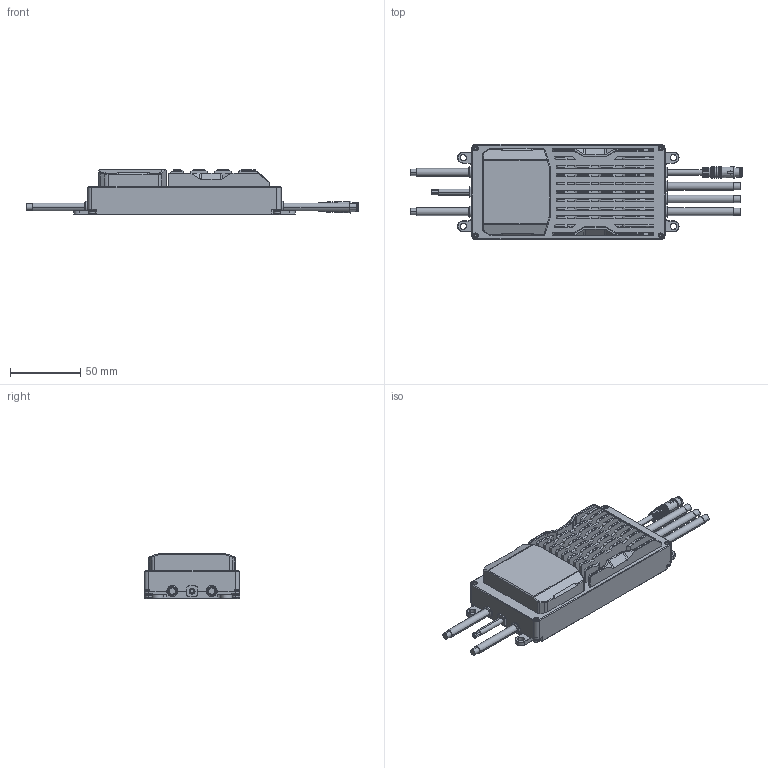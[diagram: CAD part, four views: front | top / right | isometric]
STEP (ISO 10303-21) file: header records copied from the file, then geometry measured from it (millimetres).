
FILE_DESCRIPTION((''),'2;1');
FILE_NAME('MK1','2024-11-25T16:19:49',('221126'),(''),'CREO PARAMETRIC BY PTC INC, 2021284','CREO PARAMETRIC BY PTC INC, 2021284','');
FILE_SCHEMA(('AUTOMOTIVE_DESIGN { 1 0 10303 214 1 1 1 1 }'));
Products named in the file (1): MK1
Bounding box: 236.9 x 68 x 32.5 mm (x, y, z)
Volume: 83121.3 mm3; surface area: 92710.2 mm2
Topology: 3 solids, 3 shells, 3818 faces, 9828 edges, 6344 vertices
Faces by surface type: plane 2562, cylinder 728, cone 324, bspline 165, torus 29, sphere 8, extrusion 2
Entity records: 172764 total; most frequent: CARTESIAN_POINT 46832, ORIENTED_EDGE 19656, DIRECTION 18277, PRESENTATION_STYLE_ASSIGNMENT 10278, STYLED_ITEM 9833, CURVE_STYLE 9830, EDGE_CURVE 9828, VECTOR 6967
